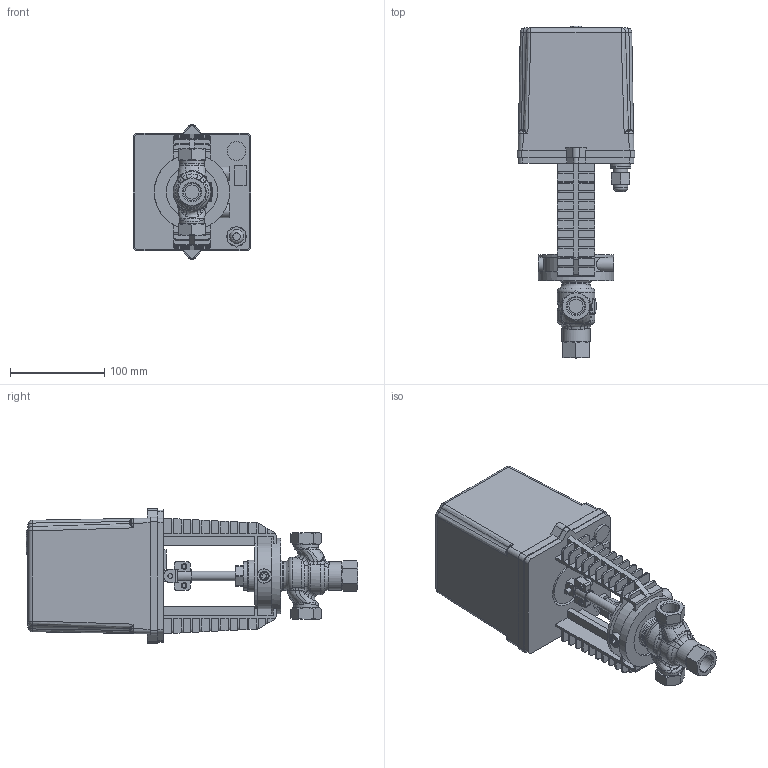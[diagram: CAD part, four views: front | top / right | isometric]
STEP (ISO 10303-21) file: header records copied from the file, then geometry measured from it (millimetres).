
FILE_DESCRIPTION(/* description */ ('D230-11263','CAx-IF Rec.Pracs.---Representation and Presentation of Product Manufacturing Information (PMI)---4.0---2014-10-13'),/* implementation_level */ '2;1');
FILE_NAME(/* name */ '',/* time_stamp */ '2026-04-07T12:33:43+03:00',/* author */ ('DN.RU'),/* organization */ ('DN.RU'),/* preprocessor_version */ 'ST-DEVELOPER v20',/* originating_system */ 'Autodesk Inventor 2025',/* authorisation */ '');
FILE_SCHEMA (('AP242_MANAGED_MODEL_BASED_3D_ENGINEERING_MIM_LF { 1 0 10303 442 1 1 4 }'));
Length unit declared in the file: millimetre
Products named in the file (1): VRg3M/S-31M-PED-T
Bounding box: 125 x 353 x 142.97 mm (x, y, z)
Volume: 2410418.9 mm3; surface area: 205069.2 mm2
Topology: 1 solids, 1 shells, 1087 faces, 2929 edges, 1878 vertices
Faces by surface type: plane 574, bspline 213, cylinder 176, cone 68, torus 42, sphere 14
Full cylindrical faces by diameter (mm): 5 x4, 6 x2, 8 x3, 8.5 x2, 10 x4, 13 x1, 15 x7, 18 x1, 18.63 x3, 20 x1, 26.12 x2, 30 x3, 34 x2, 45 x1, 50 x1, 55 x2, 80 x1
Entity records: 39752 total; most frequent: CARTESIAN_POINT 12630, ORIENTED_EDGE 5824, DIRECTION 4776, EDGE_CURVE 2912, VERTEX_POINT 1878, LINE 1684, VECTOR 1684, AXIS2_PLACEMENT_3D 1546
